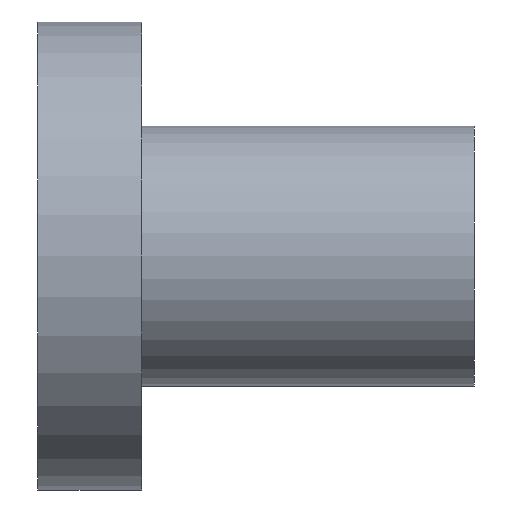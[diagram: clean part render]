
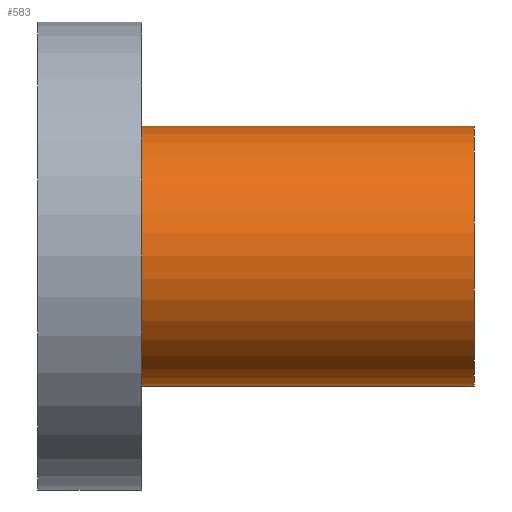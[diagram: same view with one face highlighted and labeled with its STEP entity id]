
A CAD part, left-side view. The second image highlights one B-rep face of the part: STEP entity #583.
In plain terms, the highlighted cylindrical face has radius 1.25 mm (diameter 2.5 mm), a partial arc.
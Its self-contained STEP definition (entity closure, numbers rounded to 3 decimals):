
#63 = PLANE('',#64);
#64 = AXIS2_PLACEMENT_3D('',#65,#66,#67);
#65 = CARTESIAN_POINT('',(0.,-11.2,-6.2));
#66 = DIRECTION('',(0.,-1.,0.));
#67 = DIRECTION('',(1.,0.,0.));
#350 = VERTEX_POINT('',#351);
#351 = CARTESIAN_POINT('',(-2.75,-11.2,-4.95));
#365 = PLANE('',#366);
#366 = AXIS2_PLACEMENT_3D('',#367,#368,#369);
#367 = CARTESIAN_POINT('',(-2.75,-14.4,-4.95));
#368 = DIRECTION('',(0.,0.,-1.));
#369 = DIRECTION('',(1.,0.,0.));
#411 = VERTEX_POINT('',#412);
#412 = CARTESIAN_POINT('',(-2.75,-11.2,-7.45));
#426 = PLANE('',#427);
#427 = AXIS2_PLACEMENT_3D('',#428,#429,#430);
#428 = CARTESIAN_POINT('',(1.375,-14.4,-7.45));
#429 = DIRECTION('',(0.,0.,-1.));
#430 = DIRECTION('',(1.,0.,0.));
#438 = EDGE_CURVE('',#411,#350,#439,.T.);
#439 = SURFACE_CURVE('',#440,(#445,#456),.PCURVE_S1.);
#440 = CIRCLE('',#441,1.25);
#441 = AXIS2_PLACEMENT_3D('',#442,#443,#444);
#442 = CARTESIAN_POINT('',(-2.75,-11.2,-6.2));
#443 = DIRECTION('',(-0.,1.,0.));
#444 = DIRECTION('',(1.,0.,0.));
#445 = PCURVE('',#63,#446);
#446 = DEFINITIONAL_REPRESENTATION('',(#447),#455);
#447 = ( BOUNDED_CURVE() B_SPLINE_CURVE(2,(#448,#449,#450,#451,#452,#453
,#454),.UNSPECIFIED.,.T.,.F.) B_SPLINE_CURVE_WITH_KNOTS((1,2,2,2,2,1),(
    -2.094,0.,2.094,4.189,6.283,
8.378),.UNSPECIFIED.) CURVE() GEOMETRIC_REPRESENTATION_ITEM() 
RATIONAL_B_SPLINE_CURVE((1.,0.5,1.,0.5,1.,0.5,1.)) REPRESENTATION_ITEM(
  '') );
#448 = CARTESIAN_POINT('',(-1.5,0.));
#449 = CARTESIAN_POINT('',(-1.5,-2.165));
#450 = CARTESIAN_POINT('',(-3.375,-1.083));
#451 = CARTESIAN_POINT('',(-5.25,0.));
#452 = CARTESIAN_POINT('',(-3.375,1.083));
#453 = CARTESIAN_POINT('',(-1.5,2.165));
#454 = CARTESIAN_POINT('',(-1.5,0.));
#455 = ( GEOMETRIC_REPRESENTATION_CONTEXT(2) 
PARAMETRIC_REPRESENTATION_CONTEXT() REPRESENTATION_CONTEXT('2D SPACE',''
  ) );
#456 = PCURVE('',#457,#462);
#457 = CYLINDRICAL_SURFACE('',#458,1.25);
#458 = AXIS2_PLACEMENT_3D('',#459,#460,#461);
#459 = CARTESIAN_POINT('',(-2.75,-14.4,-6.2));
#460 = DIRECTION('',(0.,-1.,-0.));
#461 = DIRECTION('',(1.,0.,0.));
#462 = DEFINITIONAL_REPRESENTATION('',(#463),#467);
#463 = LINE('',#464,#465);
#464 = CARTESIAN_POINT('',(6.283,-3.2));
#465 = VECTOR('',#466,1.);
#466 = DIRECTION('',(-1.,0.));
#467 = ( GEOMETRIC_REPRESENTATION_CONTEXT(2) 
PARAMETRIC_REPRESENTATION_CONTEXT() REPRESENTATION_CONTEXT('2D SPACE',''
  ) );
#511 = EDGE_CURVE('',#512,#350,#514,.T.);
#512 = VERTEX_POINT('',#513);
#513 = CARTESIAN_POINT('',(-2.75,-14.4,-4.95));
#514 = SURFACE_CURVE('',#515,(#519,#526),.PCURVE_S1.);
#515 = LINE('',#516,#517);
#516 = CARTESIAN_POINT('',(-2.75,-14.4,-4.95));
#517 = VECTOR('',#518,1.);
#518 = DIRECTION('',(-0.,1.,-0.));
#519 = PCURVE('',#365,#520);
#520 = DEFINITIONAL_REPRESENTATION('',(#521),#525);
#521 = LINE('',#522,#523);
#522 = CARTESIAN_POINT('',(0.,0.));
#523 = VECTOR('',#524,1.);
#524 = DIRECTION('',(0.,-1.));
#525 = ( GEOMETRIC_REPRESENTATION_CONTEXT(2) 
PARAMETRIC_REPRESENTATION_CONTEXT() REPRESENTATION_CONTEXT('2D SPACE',''
  ) );
#526 = PCURVE('',#457,#527);
#527 = DEFINITIONAL_REPRESENTATION('',(#528),#532);
#528 = LINE('',#529,#530);
#529 = CARTESIAN_POINT('',(1.571,0.));
#530 = VECTOR('',#531,1.);
#531 = DIRECTION('',(-0.,-1.));
#532 = ( GEOMETRIC_REPRESENTATION_CONTEXT(2) 
PARAMETRIC_REPRESENTATION_CONTEXT() REPRESENTATION_CONTEXT('2D SPACE',''
  ) );
#572 = PLANE('',#573);
#573 = AXIS2_PLACEMENT_3D('',#574,#575,#576);
#574 = CARTESIAN_POINT('',(0.,-14.4,-6.2));
#575 = DIRECTION('',(0.,-1.,0.));
#576 = DIRECTION('',(1.,0.,0.));
#583 = ADVANCED_FACE('',(#584),#457,.T.);
#584 = FACE_BOUND('',#585,.T.);
#585 = EDGE_LOOP('',(#586,#614,#615,#616));
#586 = ORIENTED_EDGE('',*,*,#587,.T.);
#587 = EDGE_CURVE('',#588,#512,#590,.T.);
#588 = VERTEX_POINT('',#589);
#589 = CARTESIAN_POINT('',(-2.75,-14.4,-7.45));
#590 = SURFACE_CURVE('',#591,(#596,#603),.PCURVE_S1.);
#591 = CIRCLE('',#592,1.25);
#592 = AXIS2_PLACEMENT_3D('',#593,#594,#595);
#593 = CARTESIAN_POINT('',(-2.75,-14.4,-6.2));
#594 = DIRECTION('',(-0.,1.,0.));
#595 = DIRECTION('',(1.,0.,0.));
#596 = PCURVE('',#457,#597);
#597 = DEFINITIONAL_REPRESENTATION('',(#598),#602);
#598 = LINE('',#599,#600);
#599 = CARTESIAN_POINT('',(6.283,0.));
#600 = VECTOR('',#601,1.);
#601 = DIRECTION('',(-1.,0.));
#602 = ( GEOMETRIC_REPRESENTATION_CONTEXT(2) 
PARAMETRIC_REPRESENTATION_CONTEXT() REPRESENTATION_CONTEXT('2D SPACE',''
  ) );
#603 = PCURVE('',#572,#604);
#604 = DEFINITIONAL_REPRESENTATION('',(#605),#613);
#605 = ( BOUNDED_CURVE() B_SPLINE_CURVE(2,(#606,#607,#608,#609,#610,#611
,#612),.UNSPECIFIED.,.T.,.F.) B_SPLINE_CURVE_WITH_KNOTS((1,2,2,2,2,1),(
    -2.094,0.,2.094,4.189,6.283,
8.378),.UNSPECIFIED.) CURVE() GEOMETRIC_REPRESENTATION_ITEM() 
RATIONAL_B_SPLINE_CURVE((1.,0.5,1.,0.5,1.,0.5,1.)) REPRESENTATION_ITEM(
  '') );
#606 = CARTESIAN_POINT('',(-1.5,0.));
#607 = CARTESIAN_POINT('',(-1.5,-2.165));
#608 = CARTESIAN_POINT('',(-3.375,-1.083));
#609 = CARTESIAN_POINT('',(-5.25,0.));
#610 = CARTESIAN_POINT('',(-3.375,1.083));
#611 = CARTESIAN_POINT('',(-1.5,2.165));
#612 = CARTESIAN_POINT('',(-1.5,0.));
#613 = ( GEOMETRIC_REPRESENTATION_CONTEXT(2) 
PARAMETRIC_REPRESENTATION_CONTEXT() REPRESENTATION_CONTEXT('2D SPACE',''
  ) );
#614 = ORIENTED_EDGE('',*,*,#511,.T.);
#615 = ORIENTED_EDGE('',*,*,#438,.F.);
#616 = ORIENTED_EDGE('',*,*,#617,.F.);
#617 = EDGE_CURVE('',#588,#411,#618,.T.);
#618 = SURFACE_CURVE('',#619,(#623,#630),.PCURVE_S1.);
#619 = LINE('',#620,#621);
#620 = CARTESIAN_POINT('',(-2.75,-14.4,-7.45));
#621 = VECTOR('',#622,1.);
#622 = DIRECTION('',(-0.,1.,-0.));
#623 = PCURVE('',#457,#624);
#624 = DEFINITIONAL_REPRESENTATION('',(#625),#629);
#625 = LINE('',#626,#627);
#626 = CARTESIAN_POINT('',(4.712,0.));
#627 = VECTOR('',#628,1.);
#628 = DIRECTION('',(-0.,-1.));
#629 = ( GEOMETRIC_REPRESENTATION_CONTEXT(2) 
PARAMETRIC_REPRESENTATION_CONTEXT() REPRESENTATION_CONTEXT('2D SPACE',''
  ) );
#630 = PCURVE('',#426,#631);
#631 = DEFINITIONAL_REPRESENTATION('',(#632),#636);
#632 = LINE('',#633,#634);
#633 = CARTESIAN_POINT('',(-4.125,0.));
#634 = VECTOR('',#635,1.);
#635 = DIRECTION('',(0.,-1.));
#636 = ( GEOMETRIC_REPRESENTATION_CONTEXT(2) 
PARAMETRIC_REPRESENTATION_CONTEXT() REPRESENTATION_CONTEXT('2D SPACE',''
  ) );
